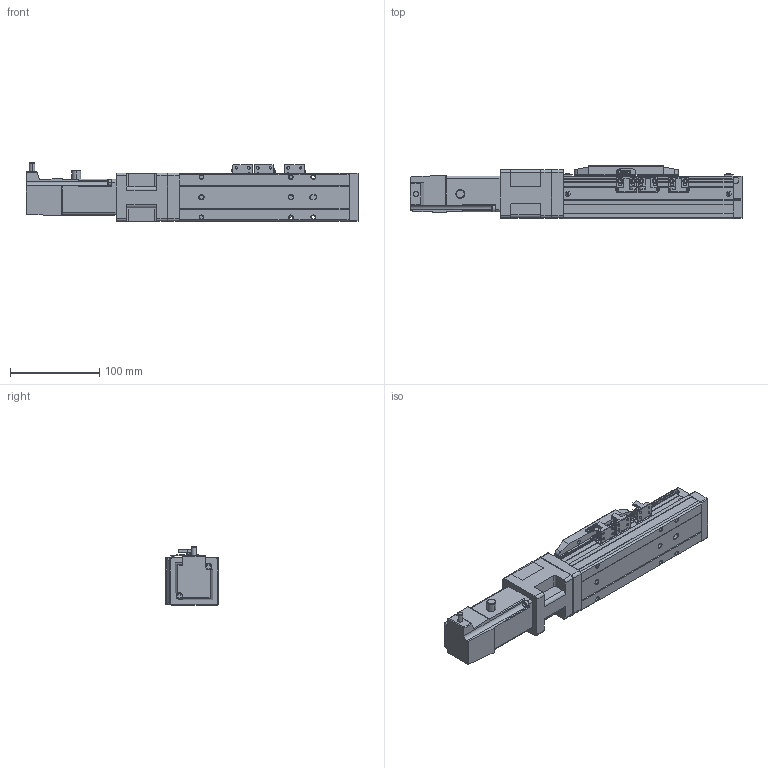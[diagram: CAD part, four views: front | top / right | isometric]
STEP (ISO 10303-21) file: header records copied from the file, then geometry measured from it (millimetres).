
FILE_DESCRIPTION (( 'STEP AP203' ), '1' );
FILE_NAME ('CTH5-L10-S50-BC-C10(¼ò).STEP', '2023-02-04T02:01:55', ( '' ), ( '' ), 'SwSTEP 2.0', 'SolidWorks 2018', '' );
FILE_SCHEMA (( 'CONFIG_CONTROL_DESIGN' ));
Length unit declared in the file: millimetre
Products named in the file (21): T10-p1; CTH5賑怢; PM-Y45; 内六角圆柱头螺钉M3-2; CTH5耜晚蹟隊-1; 嫖萇羲壽郪磁1; CTH5綴耜啣; 100W萇儂; CTH5菁釱-L190; CTH5-BC-03; 葩璃 蚾饜极13^CTH8-L10-S50-BM-C40(潠)1; CTH5萇儂釱; CTH5ヶ耜啣(潠); M3｡｣; hex nuts, style 1-grades ab gb_GB_FASTENER_NUT_SNAB1 M3-N; CTH5-L10-S50-BC-C10(潠); CTH5萇儂釱欶; M3; CTH5耜晚蹟隊; CTH嫖萇羲壽假蚾啣; CTH5覜茼え
Assembly tree (37 placements, depth 3):
  CTH5-L10-S50-BC-C10(潠)
    CTH5綴耜啣
    CTH5賑怢
    CTH5ヶ耜啣(潠)
    CTH5菁釱-L190
    CTH5耜晚蹟隊  x2
    CTH5萇儂釱
      CTH5-BC-03
    CTH5萇儂釱欶
    100W萇儂
      T10-p1
    嫖萇羲壽郪磁1  x2
      CTH嫖萇羲壽假蚾啣
      PM-Y45
      M3｡｣
      内六角圆柱头螺钉M3-2
      hex nuts, style 1-grades ab gb_GB_FASTENER_NUT_SNAB1 M3-N
    CTH5覜茼え
    葩璃 蚾饜极13^CTH8-L10-S50-BM-C40(潠)1
      CTH嫖萇羲壽假蚾啣
      PM-Y45
      内六角圆柱头螺钉M3-2  x2
      M3｡｣  x2
      hex nuts, style 1-grades ab gb_GB_FASTENER_NUT_SNAB1 M3-N  x2
    M3  x2
    CTH5耜晚蹟隊-1  x4
Bounding box: 371.1 x 60 x 65.7 mm (x, y, z)
Volume: 785720.3 mm3; surface area: 146874 mm2
Topology: 40 solids, 40 shells, 1479 faces, 3676 edges, 2378 vertices
Faces by surface type: plane 848, cylinder 426, cone 143, torus 44, bspline 18
Entity records: 32637 total; most frequent: CARTESIAN_POINT 5980, DIRECTION 5112, ORIENTED_EDGE 4900, EDGE_CURVE 2450, AXIS2_PLACEMENT_3D 1745, LINE 1622, VECTOR 1622, VERTEX_POINT 1584
